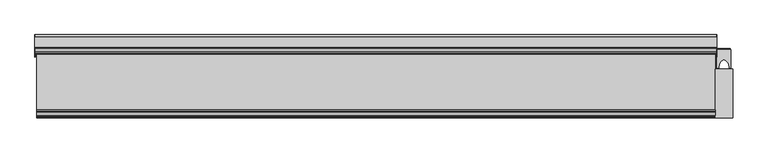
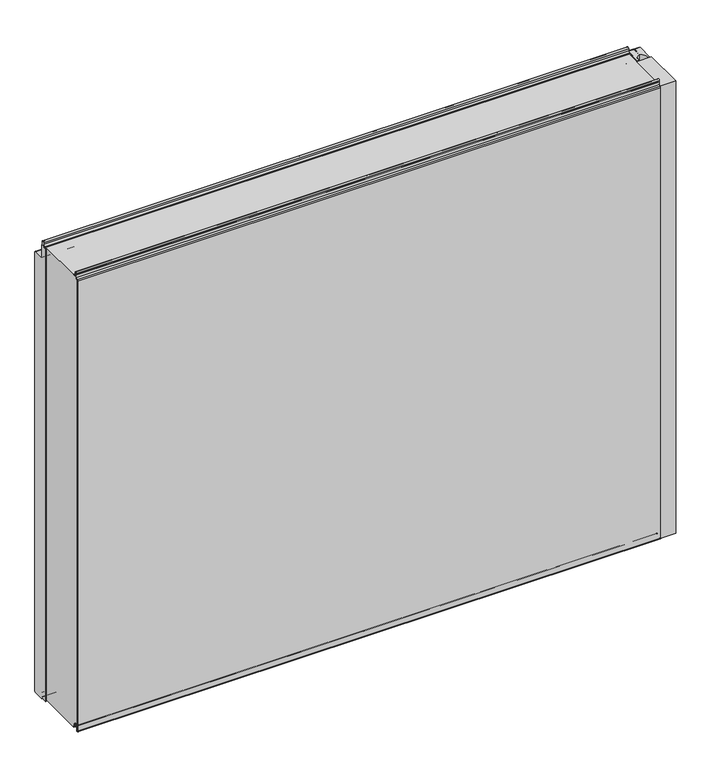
"""IFC4 building model written with IfcOpenShell, lengths in millimetres: plate geometry, Fronttop : Fronttop 150/1000."""

from ifc_helpers import new_model, si_unit, point, frame, frame_2d, origin, origin_with_axes, place, context, project, spatial, polyline, circle_curve, trimmed, segment, composite_curve, outline, extrude, source, transform, mapped, element, save
from ifc_brep_helpers import plane_surface, cylinder_surface, revolved_surface, advanced_brep


def plate_7855ccda(model_context):
    return source(origin(), model_context, "Body", "SolidModel", [
        advanced_brep(
        [(-611.5, 124.0, 1008.0), (-611.5, 121.0, 1008.0), (-611.5, 121.0, 1004.0), (-611.5, 117.0, 1000.0), (-611.5, 115.0, 1000.0), (-611.5, 115.0, 1001.0), (-611.5, 117.0, 1001.0), (-611.5, 120.0, 1004.0), (-611.5, 120.0, 1008.0), (-611.5, 125.0, 1008.0), (-611.5, 125.0, 1000.0), (-611.5, 124.0, 1000.0), (611.5, 125.0, 1008.0), (611.5, 120.0, 1008.0), (611.5, 120.0, 1004.0), (611.5, 117.0, 1001.0), (611.5, 115.0, 1001.0), (611.5, 115.0, 1000.0), (611.5, 117.0, 1000.0), (611.5, 121.0, 1004.0), (611.5, 121.0, 1008.0), (611.5, 124.0, 1008.0), (611.5, 124.0, 1000.0), (611.5, 125.0, 1000.0), (-611.5, 117.0, 2.0), (611.5, 117.0, 2.0), (611.5, 115.0, 2.0), (-611.5, 115.0, 2.0), (-611.5, 119.0, 4.0), (611.5, 119.0, 4.0), (-611.5, 119.0, 8.0), (611.5, 119.0, 8.0), (-611.5, 126.0, 8.0), (611.5, 126.0, 8.0), (-611.5, 126.0, 0.0), (611.5, 126.0, 0.0), (-611.5, 129.0, -3.0), (611.5, 129.0, -3.0), (-611.5, 125.0, -3.0), (-612.5, 125.0, -3.0), (-612.5, 147.0, -3.0), (-611.5, 147.0, -3.0), (611.5, 147.0, -3.0), (612.5, 147.0, -3.0), (612.5, 125.0, -3.0), (611.5, 125.0, -3.0), (-611.5, 150.0, 0.0), (611.5, 150.0, 0.0), (-612.5, 150.0, 0.0), (-612.5, 150.0, 969.0), (-611.5, 150.0, 969.0), (611.5, 150.0, 969.0), (612.5, 150.0, 969.0), (612.5, 150.0, 0.0), (-611.5, 147.0, 972.0), (611.5, 147.0, 972.0), (-612.5, 147.0, 972.0), (-612.5, 128.0, 972.0), (-611.5, 128.0, 972.0), (611.5, 128.0, 972.0), (612.5, 128.0, 972.0), (612.5, 147.0, 972.0), (-611.5, 125.0, 975.0), (611.5, 125.0, 975.0), (-612.5, 125.0, 975.0), (-612.5, 125.0, 1000.0), (612.5, 125.0, 1000.0), (612.5, 125.0, 975.0), (-611.5, 124.0, 975.0), (611.5, 124.0, 975.0), (-611.5, 128.0, 971.0), (611.5, 128.0, 971.0), (-611.5, 147.0, 971.0), (611.5, 147.0, 971.0), (-611.5, 149.0, 969.0), (611.5, 149.0, 969.0), (-611.5, 149.0, 0.0), (611.5, 149.0, 0.0), (-611.5, 147.0, -2.0), (611.5, 147.0, -2.0), (-611.5, 129.0, -2.0), (611.5, 129.0, -2.0), (-611.5, 127.0, 0.0), (611.5, 127.0, 0.0), (-611.5, 127.0, 8.0), (611.5, 127.0, 8.0), (-611.5, 118.0, 8.0), (611.5, 118.0, 8.0), (-611.5, 118.0, 4.0), (611.5, 118.0, 4.0), (-611.5, 117.0, 3.0), (611.5, 117.0, 3.0), (-611.5, 115.0, 3.0), (611.5, 115.0, 3.0), (612.5, 110.0, 1000.0), (612.5, 110.0, 0.0), (612.5, 125.0, 0.0), (611.5, 125.0, 0.0), (611.5, 110.0, 0.0), (611.5, 110.0, 1000.0), (-612.5, 125.0, 0.0), (-612.5, 110.0, 0.0), (-612.5, 110.0, 1000.0), (-611.5, 110.0, 1000.0), (-611.5, 110.0, 0.0), (-611.5, 125.0, 0.0)],
        [
            (0, 1, circle_curve(frame((-611.5, 122.5, 1008.0), z_axis=(1.0, 0.0, 0.0), x_axis=(0.0, -1.0, 0.0)), 1.5)),
            (1, 2),
            (2, 3, circle_curve(frame((-611.5, 117.0, 1004.0), z_axis=(-1.0, 0.0, 0.0), x_axis=(0.0, -1.0, 0.0)), 4.0)),
            (3, 4),
            (4, 5),
            (5, 6),
            (6, 7, circle_curve(frame((-611.5, 117.0, 1004.0), z_axis=(1.0, 0.0, 0.0), x_axis=(0.0, -1.0, 0.0)), 3.0)),
            (7, 8),
            (8, 9, circle_curve(frame((-611.5, 122.5, 1008.0), z_axis=(-1.0, 0.0, 0.0), x_axis=(0.0, -1.0, 0.0)), 2.5)),
            (9, 10),
            (10, 11),
            (11, 0),
            (12, 13, circle_curve(frame((611.5, 122.5, 1008.0), z_axis=(1.0, 0.0, 0.0), x_axis=(0.0, -1.0, 0.0)), 2.5)),
            (13, 14),
            (14, 15, circle_curve(frame((611.5, 117.0, 1004.0), z_axis=(-1.0, 0.0, 0.0), x_axis=(0.0, -1.0, 0.0)), 3.0)),
            (15, 16),
            (16, 17),
            (17, 18),
            (18, 19, circle_curve(frame((611.5, 117.0, 1004.0), z_axis=(1.0, 0.0, 0.0), x_axis=(0.0, -1.0, 0.0)), 4.0)),
            (19, 20),
            (20, 21, circle_curve(frame((611.5, 122.5, 1008.0), z_axis=(-1.0, 0.0, 0.0), x_axis=(0.0, -1.0, 0.0)), 1.5)),
            (21, 22),
            (22, 23),
            (23, 12),
            (24, 25),
            (25, 26),
            (26, 27),
            (27, 24),
            (24, 28, circle_curve(frame((-611.5, 117.0, 4.0), z_axis=(1.0, 0.0, 0.0), x_axis=(0.0, -1.0, 0.0)), 2.0)),
            (28, 29),
            (29, 25, circle_curve(frame((611.5, 117.0, 4.0), z_axis=(-1.0, 0.0, 0.0), x_axis=(0.0, -1.0, 0.0)), 2.0)),
            (28, 30),
            (30, 31),
            (31, 29),
            (30, 32, circle_curve(frame((-611.5, 122.5, 8.0), z_axis=(-1.0, 0.0, 0.0), x_axis=(0.0, -1.0, 0.0)), 3.5)),
            (32, 33),
            (33, 31, circle_curve(frame((611.5, 122.5, 8.0), z_axis=(1.0, 0.0, 0.0), x_axis=(0.0, -1.0, 0.0)), 3.5)),
            (32, 34),
            (34, 35),
            (35, 33),
            (34, 36, circle_curve(frame((-611.5, 129.0, 0.0), z_axis=(1.0, 0.0, 0.0), x_axis=(0.0, -1.0, 0.0)), 3.0)),
            (36, 37),
            (37, 35, circle_curve(frame((611.5, 129.0, 0.0), z_axis=(-1.0, 0.0, 0.0), x_axis=(0.0, -1.0, 0.0)), 3.0)),
            (36, 38),
            (38, 39),
            (39, 40),
            (40, 41),
            (41, 42),
            (42, 43),
            (43, 44),
            (44, 45),
            (45, 37),
            (41, 46, circle_curve(frame((-611.5, 147.0, 0.0), z_axis=(1.0, 0.0, 0.0), x_axis=(0.0, -1.0, 0.0)), 3.0)),
            (46, 47),
            (47, 42, circle_curve(frame((611.5, 147.0, 0.0), z_axis=(-1.0, 0.0, 0.0), x_axis=(0.0, -1.0, 0.0)), 3.0)),
            (46, 48),
            (48, 49),
            (49, 50),
            (50, 51),
            (51, 52),
            (52, 53),
            (53, 47),
            (50, 54, circle_curve(frame((-611.5, 147.0, 969.0), z_axis=(1.0, 0.0, 0.0), x_axis=(0.0, -1.0, 0.0)), 3.0)),
            (54, 55),
            (55, 51, circle_curve(frame((611.5, 147.0, 969.0), z_axis=(-1.0, 0.0, 0.0), x_axis=(0.0, -1.0, 0.0)), 3.0)),
            (54, 56),
            (56, 57),
            (57, 58),
            (58, 59),
            (59, 60),
            (60, 61),
            (61, 55),
            (58, 62, circle_curve(frame((-611.5, 128.0, 975.0), z_axis=(-1.0, 0.0, 0.0), x_axis=(0.0, -1.0, 0.0)), 3.0)),
            (62, 63),
            (63, 59, circle_curve(frame((611.5, 128.0, 975.0), z_axis=(1.0, 0.0, 0.0), x_axis=(0.0, -1.0, 0.0)), 3.0)),
            (62, 64),
            (64, 65),
            (65, 10),
            (9, 12),
            (23, 66),
            (66, 67),
            (67, 63),
            (8, 13),
            (7, 14),
            (6, 15),
            (5, 16),
            (4, 17),
            (4, 3),
            (3, 18),
            (18, 17),
            (2, 19),
            (1, 20),
            (0, 21),
            (11, 68),
            (68, 69),
            (69, 22),
            (68, 70, circle_curve(frame((-611.5, 128.0, 975.0), z_axis=(1.0, 0.0, 0.0), x_axis=(0.0, -1.0, 0.0)), 4.0)),
            (70, 71),
            (71, 69, circle_curve(frame((611.5, 128.0, 975.0), z_axis=(-1.0, 0.0, 0.0), x_axis=(0.0, -1.0, 0.0)), 4.0)),
            (70, 72),
            (72, 73),
            (73, 71),
            (72, 74, circle_curve(frame((-611.5, 147.0, 969.0), z_axis=(-1.0, 0.0, 0.0), x_axis=(0.0, -1.0, 0.0)), 2.0)),
            (74, 75),
            (75, 73, circle_curve(frame((611.5, 147.0, 969.0), z_axis=(1.0, 0.0, 0.0), x_axis=(0.0, -1.0, 0.0)), 2.0)),
            (74, 76),
            (76, 77),
            (77, 75),
            (76, 78, circle_curve(frame((-611.5, 147.0, 0.0), z_axis=(-1.0, 0.0, 0.0), x_axis=(0.0, -1.0, 0.0)), 2.0)),
            (78, 79),
            (79, 77, circle_curve(frame((611.5, 147.0, 0.0), z_axis=(1.0, 0.0, 0.0), x_axis=(0.0, -1.0, 0.0)), 2.0)),
            (78, 80),
            (80, 81),
            (81, 79),
            (80, 82, circle_curve(frame((-611.5, 129.0, 0.0), z_axis=(-1.0, 0.0, 0.0), x_axis=(0.0, -1.0, 0.0)), 2.0)),
            (82, 83),
            (83, 81, circle_curve(frame((611.5, 129.0, 0.0), z_axis=(1.0, 0.0, 0.0), x_axis=(0.0, -1.0, 0.0)), 2.0)),
            (82, 84),
            (84, 85),
            (85, 83),
            (84, 86, circle_curve(frame((-611.5, 122.5, 8.0), z_axis=(1.0, 0.0, 0.0), x_axis=(0.0, -1.0, 0.0)), 4.5)),
            (86, 87),
            (87, 85, circle_curve(frame((611.5, 122.5, 8.0), z_axis=(-1.0, 0.0, 0.0), x_axis=(0.0, -1.0, 0.0)), 4.5)),
            (86, 88),
            (88, 89),
            (89, 87),
            (88, 90, circle_curve(frame((-611.5, 117.0, 4.0), z_axis=(-1.0, 0.0, 0.0), x_axis=(0.0, -1.0, 0.0)), 1.0)),
            (90, 91),
            (91, 89, circle_curve(frame((611.5, 117.0, 4.0), z_axis=(1.0, 0.0, 0.0), x_axis=(0.0, -1.0, 0.0)), 1.0)),
            (90, 92),
            (92, 93),
            (93, 91),
            (26, 93),
            (92, 27),
            (66, 94),
            (94, 95),
            (95, 96),
            (96, 44),
            (43, 53, circle_curve(frame((612.5, 147.0, 0.0), z_axis=(1.0, 0.0, 0.0), x_axis=(0.0, 1.0, 0.0)), 3.0)),
            (52, 61, circle_curve(frame((612.5, 147.0, 969.0), z_axis=(1.0, 0.0, 0.0), x_axis=(0.0, 1.0, 0.0)), 3.0)),
            (60, 67, circle_curve(frame((612.5, 128.0, 975.0), z_axis=(-1.0, 0.0, 0.0), x_axis=(0.0, 1.0, 0.0)), 3.0)),
            (45, 97),
            (97, 98),
            (98, 99),
            (99, 17),
            (18, 22),
            (99, 94),
            (98, 95),
            (97, 96),
            (64, 57, circle_curve(frame((-612.5, 128.0, 975.0), z_axis=(1.0, 0.0, 0.0), x_axis=(0.0, 1.0, 0.0)), 3.0)),
            (56, 49, circle_curve(frame((-612.5, 147.0, 969.0), z_axis=(-1.0, 0.0, 0.0), x_axis=(0.0, 1.0, 0.0)), 3.0)),
            (48, 40, circle_curve(frame((-612.5, 147.0, 0.0), z_axis=(-1.0, 0.0, 0.0), x_axis=(0.0, 1.0, 0.0)), 3.0)),
            (39, 100),
            (100, 101),
            (101, 102),
            (102, 65),
            (103, 104),
            (104, 105),
            (105, 38),
            (11, 3),
            (4, 103),
            (102, 103),
            (101, 104),
            (100, 105),
        ],
        [
            plane_surface(frame((-611.5, 0.0, 0.0), z_axis=(-1.0, 0.0, 0.0), x_axis=(0.0, 0.0, 1.0))),
            plane_surface(frame((611.5, 0.0, 0.0), z_axis=(1.0, 0.0, 0.0), x_axis=(0.0, 0.0, 1.0))),
            plane_surface(frame((-611.5, 117.0, 2.0), z_axis=(0.0, 0.0, -1.0), x_axis=(1.0, 0.0, 0.0))),
            cylinder_surface(frame((-611.5, 117.0, 4.0), z_axis=(-1.0, 0.0, 0.0), x_axis=(0.0, -1.0, 0.0)), 2.0),
            plane_surface(frame((-611.5, 119.0, 8.0), z_axis=(0.0, 1.0, 0.0), x_axis=(1.0, 0.0, 0.0))),
            revolved_surface(polyline([(611.5, 119.0, 8.0), (-611.5, 119.0, 8.0)]), (-611.5, 122.5, 8.0), (1.0, 0.0, 0.0)),
            plane_surface(frame((-611.5, 126.0, 0.0), z_axis=(0.0, -1.0, 0.0), x_axis=(1.0, 0.0, 0.0))),
            cylinder_surface(frame((-611.5, 129.0, 0.0), z_axis=(-1.0, 0.0, 0.0), x_axis=(0.0, -1.0, 0.0)), 3.0),
            plane_surface(frame((-611.5, 147.0, -3.0), z_axis=(0.0, 0.0, -1.0), x_axis=(1.0, 0.0, 0.0))),
            cylinder_surface(frame((-611.5, 147.0, 0.0), z_axis=(-1.0, 0.0, 0.0), x_axis=(0.0, -1.0, 0.0)), 3.0),
            plane_surface(frame((-611.5, 150.0, 969.0), z_axis=(0.0, 1.0, 0.0), x_axis=(1.0, 0.0, 0.0))),
            cylinder_surface(frame((-611.5, 147.0, 969.0), z_axis=(-1.0, 0.0, 0.0), x_axis=(0.0, -1.0, 0.0)), 3.0),
            plane_surface(frame((-611.5, 128.0, 972.0), z_axis=(0.0, 0.0, 1.0), x_axis=(1.0, 0.0, 0.0))),
            revolved_surface(polyline([(611.5, 125.0, 975.0), (-611.5, 125.0, 975.0)]), (-611.5, 128.0, 975.0), (1.0, 0.0, 0.0)),
            plane_surface(frame((-611.5, 125.0, 1008.0), z_axis=(0.0, 1.0, 0.0), x_axis=(1.0, 0.0, 0.0))),
            cylinder_surface(frame((-611.5, 122.5, 1008.0), z_axis=(-1.0, 0.0, 0.0), x_axis=(0.0, -1.0, 0.0)), 2.5),
            plane_surface(frame((-611.5, 120.0, 1004.0), z_axis=(0.0, -1.0, 0.0), x_axis=(1.0, 0.0, 0.0))),
            revolved_surface(polyline([(611.5, 114.0, 1004.0), (-611.5, 114.0, 1004.0)]), (-611.5, 117.0, 1004.0), (1.0, 0.0, 0.0)),
            plane_surface(frame((-611.5, 115.0, 1001.0), z_axis=(0.0, 0.0, 1.0), x_axis=(1.0, 0.0, 0.0))),
            plane_surface(frame((-611.5, 115.0, 1000.0), z_axis=(0.0, -1.0, 0.0), x_axis=(1.0, 0.0, 0.0))),
            plane_surface(frame((-611.5, 117.0, 1000.0), z_axis=(0.0, 0.0, -1.0), x_axis=(1.0, 0.0, 0.0))),
            cylinder_surface(frame((-611.5, 117.0, 1004.0), z_axis=(-1.0, 0.0, 0.0), x_axis=(0.0, -1.0, 0.0)), 4.0),
            plane_surface(frame((-611.5, 121.0, 1008.0), z_axis=(0.0, 1.0, 0.0), x_axis=(1.0, 0.0, 0.0))),
            revolved_surface(polyline([(611.5, 121.0, 1008.0), (-611.5, 121.0, 1008.0)]), (-611.5, 122.5, 1008.0), (1.0, 0.0, 0.0)),
            plane_surface(frame((-611.5, 124.0, 975.0), z_axis=(0.0, -1.0, 0.0), x_axis=(1.0, 0.0, 0.0))),
            cylinder_surface(frame((-611.5, 128.0, 975.0), z_axis=(-1.0, 0.0, 0.0), x_axis=(0.0, -1.0, 0.0)), 4.0),
            plane_surface(frame((-611.5, 147.0, 971.0), z_axis=(0.0, 0.0, -1.0), x_axis=(1.0, 0.0, 0.0))),
            revolved_surface(polyline([(611.5, 145.0, 969.0), (-611.5, 145.0, 969.0)]), (-611.5, 147.0, 969.0), (1.0, 0.0, 0.0)),
            plane_surface(frame((-611.5, 149.0, 0.0), z_axis=(0.0, -1.0, 0.0), x_axis=(1.0, 0.0, 0.0))),
            revolved_surface(polyline([(611.5, 145.0, 0.0), (-611.5, 145.0, 0.0)]), (-611.5, 147.0, 0.0), (1.0, 0.0, 0.0)),
            plane_surface(frame((-611.5, 129.0, -2.0), z_axis=(0.0, 0.0, 1.0), x_axis=(1.0, 0.0, 0.0))),
            revolved_surface(polyline([(611.5, 127.0, 0.0), (-611.5, 127.0, 0.0)]), (-611.5, 129.0, 0.0), (1.0, 0.0, 0.0)),
            plane_surface(frame((-611.5, 127.0, 8.0), z_axis=(0.0, 1.0, 0.0), x_axis=(1.0, 0.0, 0.0))),
            cylinder_surface(frame((-611.5, 122.5, 8.0), z_axis=(-1.0, 0.0, 0.0), x_axis=(0.0, -1.0, 0.0)), 4.5),
            plane_surface(frame((-611.5, 118.0, 4.0), z_axis=(0.0, -1.0, 0.0), x_axis=(1.0, 0.0, 0.0))),
            revolved_surface(polyline([(611.5, 116.0, 4.0), (-611.5, 116.0, 4.0)]), (-611.5, 117.0, 4.0), (1.0, 0.0, 0.0)),
            plane_surface(frame((-611.5, 115.0, 3.0), z_axis=(0.0, 0.0, 1.0), x_axis=(1.0, 0.0, 0.0))),
            plane_surface(frame((-611.5, 115.0, 2.0), z_axis=(0.0, -1.0, 0.0), x_axis=(1.0, 0.0, 0.0))),
            plane_surface(frame((612.5, 125.0, 1000.0), z_axis=(1.0, 0.0, 0.0), x_axis=(0.0, -1.0, 0.0))),
            plane_surface(frame((611.5, 125.0, 1000.0), z_axis=(-1.0, 0.0, 0.0), x_axis=(0.0, 1.0, 0.0))),
            plane_surface(frame((612.5, 125.0, 1000.0), z_axis=(0.0, 0.0, 1.0), x_axis=(-1.0, 0.0, 0.0))),
            plane_surface(frame((612.5, 110.0, 1000.0), z_axis=(0.0, -1.0, 0.0), x_axis=(-1.0, 0.0, 0.0))),
            plane_surface(frame((612.5, 110.0, 0.0), z_axis=(0.0, 0.0, -1.0), x_axis=(-1.0, 0.0, 0.0))),
            cylinder_surface(frame((611.5, 147.0, 0.0), z_axis=(1.0, 0.0, 0.0), x_axis=(0.0, 1.0, 0.0)), 3.0),
            cylinder_surface(frame((611.5, 147.0, 969.0), z_axis=(1.0, 0.0, 0.0), x_axis=(0.0, 1.0, 0.0)), 3.0),
            revolved_surface(polyline([(611.5, 131.0, 975.0), (612.5, 131.0, 975.0)]), (611.5, 128.0, 975.0), (-1.0, 0.0, 0.0)),
            plane_surface(frame((-612.5, 125.0, 1000.0), z_axis=(-1.0, 0.0, 0.0), x_axis=(0.0, 1.0, 0.0))),
            plane_surface(frame((-611.5, 125.0, 1000.0), z_axis=(1.0, 0.0, 0.0), x_axis=(0.0, -1.0, 0.0))),
            plane_surface(frame((-611.5, 125.0, 1000.0), z_axis=(0.0, 0.0, 1.0), x_axis=(-1.0, 0.0, 0.0))),
            plane_surface(frame((-611.5, 110.0, 1000.0), z_axis=(0.0, -1.0, 0.0), x_axis=(-1.0, 0.0, 0.0))),
            plane_surface(frame((-611.5, 110.0, 0.0), z_axis=(0.0, 0.0, -1.0), x_axis=(-1.0, 0.0, 0.0))),
            cylinder_surface(frame((-612.5, 147.0, 0.0), z_axis=(1.0, 0.0, 0.0), x_axis=(0.0, 1.0, 0.0)), 3.0),
            cylinder_surface(frame((-612.5, 147.0, 969.0), z_axis=(1.0, 0.0, 0.0), x_axis=(0.0, 1.0, 0.0)), 3.0),
            revolved_surface(polyline([(-612.5, 131.0, 975.0), (-611.5, 131.0, 975.0)]), (-612.5, 128.0, 975.0), (-1.0, 0.0, 0.0)),
            plane_surface(frame((612.5, 125.0, 0.0), z_axis=(0.0, -1.0, 0.0), x_axis=(-1.0, 0.0, 0.0))),
            plane_surface(frame((-611.5, 125.0, 0.0), z_axis=(0.0, -1.0, 0.0), x_axis=(-1.0, 0.0, 0.0))),
        ],
        [
            (0, [[1, 2, 3, 4, 5, 6, 7, 8, 9, 10, 11, 12]]),
            (1, [[13, 14, 15, 16, 17, 18, 19, 20, 21, 22, 23, 24]]),
            (2, [[25, 26, 27, 28]]),
            (3, [[-25, 29, 30, 31]]),
            (4, [[-30, 32, 33, 34]]),
            (5, [[-33, 35, 36, 37]]),
            (6, [[-36, 38, 39, 40]]),
            (7, [[-39, 41, 42, 43]]),
            (8, [[-42, 44, 45, 46, 47, 48, 49, 50, 51, 52]]),
            (9, [[-48, 53, 54, 55]]),
            (10, [[-54, 56, 57, 58, 59, 60, 61, 62]]),
            (11, [[-59, 63, 64, 65]]),
            (12, [[-64, 66, 67, 68, 69, 70, 71, 72]]),
            (13, [[-69, 73, 74, 75]]),
            (14, [[-74, 76, 77, 78, -10, 79, -24, 80, 81, 82]]),
            (15, [[-9, 83, -13, -79]]),
            (16, [[-8, 84, -14, -83]]),
            (17, [[-7, 85, -15, -84]]),
            (18, [[-6, 86, -16, -85]]),
            (19, [[-5, 87, -17, -86]]),
            (20, [[-87, 88, 89, 90]]),
            (21, [[-3, 91, -19, -89]]),
            (22, [[-2, 92, -20, -91]]),
            (23, [[-1, 93, -21, -92]]),
            (24, [[-93, -12, 94, 95, 96, -22]]),
            (25, [[-95, 97, 98, 99]]),
            (26, [[-98, 100, 101, 102]]),
            (27, [[-101, 103, 104, 105]]),
            (28, [[-104, 106, 107, 108]]),
            (29, [[-107, 109, 110, 111]]),
            (30, [[-110, 112, 113, 114]]),
            (31, [[-113, 115, 116, 117]]),
            (32, [[-116, 118, 119, 120]]),
            (33, [[-119, 121, 122, 123]]),
            (34, [[-122, 124, 125, 126]]),
            (35, [[-125, 127, 128, 129]]),
            (36, [[-128, 130, 131, 132]]),
            (37, [[-27, 133, -131, 134]]),
            (38, [[135, 136, 137, 138, -50, 139, -61, 140, -71, 141, -81]]),
            (39, [[142, 143, 144, 145, -90, 146, -96, -99, -102, -105, -108, -111, -114, -117, -120, -123, -126, -129, -132, -133, -26, -31, -34, -37, -40, -43, -52]]),
            (40, [[-135, -80, -23, -146, -18, -145, 147]]),
            (41, [[-136, -147, -144, 148]]),
            (42, [[-137, -148, -143, 149]]),
            (43, [[-139, -49, -55, -62]]),
            (44, [[-140, -60, -65, -72]]),
            (45, [[-141, -70, -75, -82]]),
            (46, [[-77, 150, -67, 151, -57, 152, -46, 153, 154, 155, 156]]),
            (47, [[157, 158, 159, -44, -41, -38, -35, -32, -29, -28, -134, -130, -127, -124, -121, -118, -115, -112, -109, -106, -103, -100, -97, -94, 160, -88, 161]]),
            (48, [[-156, 162, -161, -4, -160, -11, -78]]),
            (49, [[-155, 163, -157, -162]]),
            (50, [[-154, 164, -158, -163]]),
            (51, [[-152, -56, -53, -47]]),
            (52, [[-151, -66, -63, -58]]),
            (53, [[-150, -76, -73, -68]]),
            (54, [[-138, -149, -142, -51]]),
            (55, [[-153, -45, -159, -164]]),
        ],
    ),
        extrude(outline(composite_curve([segment(polyline([(612.4998455, 123.5), (624.25, 123.5), (624.25, 107.5), (625.75, 107.5), (625.75, 123.5), (637.5001545, 123.5), (637.5001545, 90.0), (634.75, 90.0), (634.75, 92.5)]), True, "CONTINUOUS"), segment(trimmed(circle_curve(frame_2d((616.9661979, 89.3183984)), 18.0661619), [point((634.75, 92.5))], [point((625.0, 105.5))], True, "CARTESIAN"), True, "CONTINUOUS"), segment(trimmed(circle_curve(frame_2d((633.0338021, 89.3183984)), 18.0661619), [point((625.0, 105.5))], [point((615.25, 92.5))], True, "CARTESIAN"), True, "CONTINUOUS"), segment(polyline([(615.25, 92.5), (615.25, 90.0), (612.4998455, 90.0), (612.4998455, 123.5)]), True, "CONTINUOUS")], self_intersect=False)), origin_with_axes(), (0.0, 0.0, 1.0), 1000.0),
        extrude(outline(polyline([(640.5, 0.0), (609.5, 0.0), (609.5, 88.0), (640.5, 88.0), (640.5, 0.0)])), origin_with_axes(), (0.0, 0.0, 1.0), 1000.0),
        extrude(outline(polyline([(613.4948846, 125.0), (636.5051154, 125.0), (636.5051154, 123.5), (625.6502496, 123.5), (625.6502496, 109.0759655), (624.35, 109.0759655), (624.35, 123.5), (613.4948846, 123.5), (613.4948846, 125.0)])), origin_with_axes(), (0.0, 0.0, 1.0), 1000.0),
        advanced_brep(
        [(-609.5, 13.0, 1001.0), (-609.5, 15.0, 1001.0), (-609.5, 15.0, 1000.0), (-609.5, 13.0, 1000.0), (-609.5, 9.0, 1004.0), (-609.5, 9.0, 1008.0), (-609.5, 6.0, 1008.0), (-609.5, 6.0, 999.5), (-609.5, 2.1134897, 996.0214069), (-609.5, 1.0, 995.0), (-609.5, 1.0, -0.5), (-609.5, 3.0, -0.5), (-609.5, 3.0, 8.0), (-609.5, 12.0, 8.0), (-609.5, 12.0, 4.0), (-609.5, 13.0, 3.0), (-609.5, 15.0, 3.0), (-609.5, 15.0, 2.0), (-609.5, 13.0, 2.0), (-609.5, 11.0, 4.0), (-609.5, 11.0, 8.0), (-609.5, 4.0, 8.0), (-609.5, 4.0, -0.5), (-609.5, 0.0, -0.5), (-609.5, 0.0, 995.0), (-609.5, 2.220863, 996.9877675), (-609.5, 5.0, 999.5), (-609.5, 5.0, 1008.0), (-609.5, 10.0, 1008.0), (-609.5, 10.0, 1004.0), (609.5, 13.0, 1001.0), (609.5, 10.0, 1004.0), (609.5, 10.0, 1008.0), (609.5, 5.0, 1008.0), (609.5, 5.0, 999.5), (609.5, 2.2239212, 997.0152907), (609.5, 0.0, 995.0), (609.5, 0.0, -0.5), (609.5, 4.0, -0.5), (609.5, 4.0, 8.0), (609.5, 11.0, 8.0), (609.5, 11.0, 4.0), (609.5, 13.0, 2.0), (609.5, 15.0, 2.0), (609.5, 15.0, 3.0), (609.5, 13.0, 3.0), (609.5, 12.0, 4.0), (609.5, 12.0, 8.0), (609.5, 3.0, 8.0), (609.5, 3.0, -0.5), (609.5, 1.0, -0.5), (609.5, 1.0, 995.0), (609.5, 2.1104315, 995.9938837), (609.5, 6.0, 999.5), (609.5, 6.0, 1008.0), (609.5, 9.0, 1008.0), (609.5, 9.0, 1004.0), (609.5, 13.0, 1000.0), (609.5, 15.0, 1000.0), (609.5, 15.0, 1001.0)],
        [
            (0, 1),
            (1, 2),
            (2, 3),
            (3, 4, circle_curve(frame((-609.5, 13.0, 1004.0), z_axis=(-1.0, 0.0, 0.0), x_axis=(0.0, -1.0, 0.0)), 4.0)),
            (4, 5),
            (5, 6, circle_curve(frame((-609.5, 7.5, 1008.0), z_axis=(1.0, 0.0, 0.0), x_axis=(0.0, -1.0, 0.0)), 1.5)),
            (6, 7),
            (7, 8, circle_curve(frame((-609.5, 2.5, 999.5), z_axis=(-1.0, 0.0, 0.0), x_axis=(0.0, -1.0, 0.0)), 3.5)),
            (8, 9, circle_curve(frame((-609.5, 2.0, 995.0), z_axis=(1.0, 0.0, 0.0), x_axis=(0.0, -1.0, 0.0)), 1.0)),
            (9, 10),
            (10, 11, circle_curve(frame((-609.5, 2.0, -0.5), z_axis=(1.0, 0.0, 0.0), x_axis=(0.0, -1.0, 0.0)), 1.0)),
            (11, 12),
            (12, 13, circle_curve(frame((-609.5, 7.5, 8.0), z_axis=(-1.0, 0.0, 0.0), x_axis=(0.0, -1.0, 0.0)), 4.5)),
            (13, 14),
            (14, 15, circle_curve(frame((-609.5, 13.0, 4.0), z_axis=(1.0, 0.0, 0.0), x_axis=(0.0, -1.0, 0.0)), 1.0)),
            (15, 16),
            (16, 17),
            (17, 18),
            (18, 19, circle_curve(frame((-609.5, 13.0, 4.0), z_axis=(-1.0, 0.0, 0.0), x_axis=(0.0, -1.0, 0.0)), 2.0)),
            (19, 20),
            (20, 21, circle_curve(frame((-609.5, 7.5, 8.0), z_axis=(1.0, 0.0, 0.0), x_axis=(0.0, -1.0, 0.0)), 3.5)),
            (21, 22),
            (22, 23, circle_curve(frame((-609.5, 2.0, -0.5), z_axis=(-1.0, 0.0, 0.0), x_axis=(0.0, -1.0, 0.0)), 2.0)),
            (23, 24),
            (24, 25, circle_curve(frame((-609.5, 2.0, 995.0), z_axis=(-1.0, 0.0, 0.0), x_axis=(0.0, -1.0, 0.0)), 2.0)),
            (25, 26, circle_curve(frame((-609.5, 2.5, 999.5), z_axis=(1.0, 0.0, 0.0), x_axis=(0.0, -1.0, 0.0)), 2.5)),
            (26, 27),
            (27, 28, circle_curve(frame((-609.5, 7.5, 1008.0), z_axis=(-1.0, 0.0, 0.0), x_axis=(0.0, -1.0, 0.0)), 2.5)),
            (28, 29),
            (29, 0, circle_curve(frame((-609.5, 13.0, 1004.0), z_axis=(1.0, 0.0, 0.0), x_axis=(0.0, -1.0, 0.0)), 3.0)),
            (30, 31, circle_curve(frame((609.5, 13.0, 1004.0), z_axis=(-1.0, 0.0, 0.0), x_axis=(0.0, -1.0, 0.0)), 3.0)),
            (31, 32),
            (32, 33, circle_curve(frame((609.5, 7.5, 1008.0), z_axis=(1.0, 0.0, 0.0), x_axis=(0.0, -1.0, 0.0)), 2.5)),
            (33, 34),
            (34, 35, circle_curve(frame((609.5, 2.5, 999.5), z_axis=(-1.0, 0.0, 0.0), x_axis=(0.0, -1.0, 0.0)), 2.5)),
            (35, 36, circle_curve(frame((609.5, 2.0, 995.0), z_axis=(1.0, 0.0, 0.0), x_axis=(0.0, -1.0, 0.0)), 2.0)),
            (36, 37),
            (37, 38, circle_curve(frame((609.5, 2.0, -0.5), z_axis=(1.0, 0.0, 0.0), x_axis=(0.0, -1.0, 0.0)), 2.0)),
            (38, 39),
            (39, 40, circle_curve(frame((609.5, 7.5, 8.0), z_axis=(-1.0, 0.0, 0.0), x_axis=(0.0, -1.0, 0.0)), 3.5)),
            (40, 41),
            (41, 42, circle_curve(frame((609.5, 13.0, 4.0), z_axis=(1.0, 0.0, 0.0), x_axis=(0.0, -1.0, 0.0)), 2.0)),
            (42, 43),
            (43, 44),
            (44, 45),
            (45, 46, circle_curve(frame((609.5, 13.0, 4.0), z_axis=(-1.0, 0.0, 0.0), x_axis=(0.0, -1.0, 0.0)), 1.0)),
            (46, 47),
            (47, 48, circle_curve(frame((609.5, 7.5, 8.0), z_axis=(1.0, 0.0, 0.0), x_axis=(0.0, -1.0, 0.0)), 4.5)),
            (48, 49),
            (49, 50, circle_curve(frame((609.5, 2.0, -0.5), z_axis=(-1.0, 0.0, 0.0), x_axis=(0.0, -1.0, 0.0)), 1.0)),
            (50, 51),
            (51, 52, circle_curve(frame((609.5, 2.0, 995.0), z_axis=(-1.0, 0.0, 0.0), x_axis=(0.0, -1.0, 0.0)), 1.0)),
            (52, 53, circle_curve(frame((609.5, 2.5, 999.5), z_axis=(1.0, 0.0, 0.0), x_axis=(0.0, -1.0, 0.0)), 3.5)),
            (53, 54),
            (54, 55, circle_curve(frame((609.5, 7.5, 1008.0), z_axis=(-1.0, 0.0, 0.0), x_axis=(0.0, -1.0, 0.0)), 1.5)),
            (55, 56),
            (56, 57, circle_curve(frame((609.5, 13.0, 1004.0), z_axis=(1.0, 0.0, 0.0), x_axis=(0.0, -1.0, 0.0)), 4.0)),
            (57, 58),
            (58, 59),
            (59, 30),
            (0, 30),
            (59, 1),
            (58, 2),
            (57, 3),
            (56, 4),
            (55, 5),
            (54, 6),
            (53, 7),
            (52, 8),
            (51, 9),
            (50, 10),
            (49, 11),
            (48, 12),
            (47, 13),
            (46, 14),
            (45, 15),
            (44, 16),
            (43, 17),
            (42, 18),
            (41, 19),
            (40, 20),
            (39, 21),
            (38, 22),
            (37, 23),
            (36, 24),
            (35, 25),
            (34, 26),
            (33, 27),
            (32, 28),
            (31, 29),
        ],
        [
            plane_surface(frame((-609.5, 0.0, 0.0), z_axis=(-1.0, 0.0, 0.0), x_axis=(0.0, 0.0, 1.0))),
            plane_surface(frame((609.5, 0.0, 0.0), z_axis=(1.0, 0.0, 0.0), x_axis=(0.0, 0.0, 1.0))),
            plane_surface(frame((-609.5, 13.0, 1001.0), z_axis=(0.0, 0.0, 1.0), x_axis=(1.0, 0.0, 0.0))),
            plane_surface(frame((-609.5, 15.0, 1001.0), z_axis=(0.0, 1.0, 0.0), x_axis=(1.0, 0.0, 0.0))),
            plane_surface(frame((-609.5, 15.0, 1000.0), z_axis=(0.0, 0.0, -1.0), x_axis=(1.0, 0.0, 0.0))),
            cylinder_surface(frame((-609.5, 13.0, 1004.0), z_axis=(-1.0, 0.0, 0.0), x_axis=(0.0, -1.0, 0.0)), 4.0),
            plane_surface(frame((-609.5, 9.0, 1004.0), z_axis=(0.0, -1.0, 0.0), x_axis=(1.0, 0.0, 0.0))),
            revolved_surface(polyline([(609.5, 6.0, 1008.0), (-609.5, 6.0, 1008.0)]), (-609.5, 7.5, 1008.0), (1.0, 0.0, 0.0)),
            plane_surface(frame((-609.5, 6.0, 1008.0), z_axis=(0.0, 1.0, 0.0), x_axis=(1.0, 0.0, 0.0))),
            cylinder_surface(frame((-609.5, 2.5, 999.5), z_axis=(-1.0, 0.0, 0.0), x_axis=(0.0, -1.0, 0.0)), 3.5),
            revolved_surface(polyline([(609.5, 1.0, 995.0), (-609.5, 1.0, 995.0)]), (-609.5, 2.0, 995.0), (1.0, 0.0, 0.0)),
            plane_surface(frame((-609.5, 1.0, 995.0), z_axis=(0.0, 1.0, 0.0), x_axis=(1.0, 0.0, 0.0))),
            revolved_surface(polyline([(609.5, 1.0, -0.5), (-609.5, 1.0, -0.5)]), (-609.5, 2.0, -0.5), (1.0, 0.0, 0.0)),
            plane_surface(frame((-609.5, 3.0, -0.5), z_axis=(0.0, -1.0, 0.0), x_axis=(1.0, 0.0, 0.0))),
            cylinder_surface(frame((-609.5, 7.5, 8.0), z_axis=(-1.0, 0.0, 0.0), x_axis=(0.0, -1.0, 0.0)), 4.5),
            plane_surface(frame((-609.5, 12.0, 8.0), z_axis=(0.0, 1.0, 0.0), x_axis=(1.0, 0.0, 0.0))),
            revolved_surface(polyline([(609.5, 12.0, 4.0), (-609.5, 12.0, 4.0)]), (-609.5, 13.0, 4.0), (1.0, 0.0, 0.0)),
            plane_surface(frame((-609.5, 13.0, 3.0), z_axis=(0.0, 0.0, 1.0), x_axis=(1.0, 0.0, 0.0))),
            plane_surface(frame((-609.5, 15.0, 3.0), z_axis=(0.0, 1.0, 0.0), x_axis=(1.0, 0.0, 0.0))),
            plane_surface(frame((-609.5, 15.0, 2.0), z_axis=(0.0, 0.0, -1.0), x_axis=(1.0, 0.0, 0.0))),
            cylinder_surface(frame((-609.5, 13.0, 4.0), z_axis=(-1.0, 0.0, 0.0), x_axis=(0.0, -1.0, 0.0)), 2.0),
            plane_surface(frame((-609.5, 11.0, 4.0), z_axis=(0.0, -1.0, 0.0), x_axis=(1.0, 0.0, 0.0))),
            revolved_surface(polyline([(609.5, 4.0, 8.0), (-609.5, 4.0, 8.0)]), (-609.5, 7.5, 8.0), (1.0, 0.0, 0.0)),
            plane_surface(frame((-609.5, 4.0, 8.0), z_axis=(0.0, 1.0, 0.0), x_axis=(1.0, 0.0, 0.0))),
            cylinder_surface(frame((-609.5, 2.0, -0.5), z_axis=(-1.0, 0.0, 0.0), x_axis=(0.0, -1.0, 0.0)), 2.0),
            plane_surface(frame((-609.5, 0.0, -0.5), z_axis=(0.0, -1.0, 0.0), x_axis=(1.0, 0.0, 0.0))),
            cylinder_surface(frame((-609.5, 2.0, 995.0), z_axis=(-1.0, 0.0, 0.0), x_axis=(0.0, -1.0, 0.0)), 2.0),
            revolved_surface(polyline([(609.5, 0.0, 999.5), (-609.5, 0.0, 999.5)]), (-609.5, 2.5, 999.5), (1.0, 0.0, 0.0)),
            plane_surface(frame((-609.5, 5.0, 999.5), z_axis=(0.0, -1.0, 0.0), x_axis=(1.0, 0.0, 0.0))),
            cylinder_surface(frame((-609.5, 7.5, 1008.0), z_axis=(-1.0, 0.0, 0.0), x_axis=(0.0, -1.0, 0.0)), 2.5),
            plane_surface(frame((-609.5, 10.0, 1008.0), z_axis=(0.0, 1.0, 0.0), x_axis=(1.0, 0.0, 0.0))),
            revolved_surface(polyline([(609.5, 10.0, 1004.0), (-609.5, 10.0, 1004.0)]), (-609.5, 13.0, 1004.0), (1.0, 0.0, 0.0)),
        ],
        [
            (0, [[1, 2, 3, 4, 5, 6, 7, 8, 9, 10, 11, 12, 13, 14, 15, 16, 17, 18, 19, 20, 21, 22, 23, 24, 25, 26, 27, 28, 29, 30]]),
            (1, [[31, 32, 33, 34, 35, 36, 37, 38, 39, 40, 41, 42, 43, 44, 45, 46, 47, 48, 49, 50, 51, 52, 53, 54, 55, 56, 57, 58, 59, 60]]),
            (2, [[-1, 61, -60, 62]]),
            (3, [[-2, -62, -59, 63]]),
            (4, [[-3, -63, -58, 64]]),
            (5, [[-4, -64, -57, 65]]),
            (6, [[-5, -65, -56, 66]]),
            (7, [[-6, -66, -55, 67]]),
            (8, [[-7, -67, -54, 68]]),
            (9, [[-8, -68, -53, 69]]),
            (10, [[-9, -69, -52, 70]]),
            (11, [[-10, -70, -51, 71]]),
            (12, [[-11, -71, -50, 72]]),
            (13, [[-12, -72, -49, 73]]),
            (14, [[-13, -73, -48, 74]]),
            (15, [[-14, -74, -47, 75]]),
            (16, [[-15, -75, -46, 76]]),
            (17, [[-16, -76, -45, 77]]),
            (18, [[-17, -77, -44, 78]]),
            (19, [[-18, -78, -43, 79]]),
            (20, [[-19, -79, -42, 80]]),
            (21, [[-20, -80, -41, 81]]),
            (22, [[-21, -81, -40, 82]]),
            (23, [[-22, -82, -39, 83]]),
            (24, [[-23, -83, -38, 84]]),
            (25, [[-24, -84, -37, 85]]),
            (26, [[-25, -85, -36, 86]]),
            (27, [[-26, -86, -35, 87]]),
            (28, [[-27, -87, -34, 88]]),
            (29, [[-28, -88, -33, 89]]),
            (30, [[-29, -89, -32, 90]]),
            (31, [[-30, -90, -31, -61]]),
        ],
    ),
        extrude(outline(composite_curve([segment(polyline([(15.0, 3.0), (13.0, 3.0)]), True, "CONTINUOUS"), segment(trimmed(circle_curve(frame_2d((13.0, 4.0)), 1.0), [point((13.0, 3.0))], [point((12.0, 4.0))], False, "CARTESIAN"), True, "CONTINUOUS"), segment(polyline([(12.0, 4.0), (12.0, 8.0)]), True, "CONTINUOUS"), segment(trimmed(circle_curve(frame_2d((7.5, 8.0)), 4.5), [point((12.0, 8.0))], [point((3.0, 8.0))], True, "CARTESIAN"), True, "CONTINUOUS"), segment(polyline([(3.0, 8.0), (3.0, -0.5)]), True, "CONTINUOUS"), segment(trimmed(circle_curve(frame_2d((2.0, -0.5)), 1.0), [point((3.0, -0.5))], [point((1.0, -0.5))], False, "CARTESIAN"), True, "CONTINUOUS"), segment(polyline([(1.0, -0.5), (1.0, 995.0278643)]), True, "CONTINUOUS"), segment(trimmed(circle_curve(frame_2d((2.0, 995.0278643)), 1.0), [point((1.0, 995.0278643))], [point((2.1111111, 996.0216723))], False, "CARTESIAN"), True, "CONTINUOUS"), segment(trimmed(circle_curve(frame_2d((2.5, 999.5)), 3.5), [point((2.1111111, 996.0216723))], [point((6.0, 999.5))], True, "CARTESIAN"), True, "CONTINUOUS"), segment(polyline([(6.0, 999.5), (6.0, 1008.0)]), True, "CONTINUOUS"), segment(trimmed(circle_curve(frame_2d((7.5, 1008.0)), 1.5), [point((6.0, 1008.0))], [point((9.0, 1008.0))], False, "CARTESIAN"), True, "CONTINUOUS"), segment(polyline([(9.0, 1008.0), (9.0, 1004.0)]), True, "CONTINUOUS"), segment(trimmed(circle_curve(frame_2d((13.0, 1004.0)), 4.0), [point((9.0, 1004.0))], [point((13.0, 1000.0))], True, "CARTESIAN"), True, "CONTINUOUS"), segment(polyline([(13.0, 1000.0), (117.0, 1000.0)]), True, "CONTINUOUS"), segment(trimmed(circle_curve(frame_2d((117.0, 1004.0)), 4.0), [point((117.0, 1000.0))], [point((121.0, 1004.0))], True, "CARTESIAN"), True, "CONTINUOUS"), segment(polyline([(121.0, 1004.0), (121.0, 1008.0)]), True, "CONTINUOUS"), segment(trimmed(circle_curve(frame_2d((122.5, 1008.0)), 1.5), [point((121.0, 1008.0))], [point((124.0, 1008.0))], False, "CARTESIAN"), True, "CONTINUOUS"), segment(polyline([(124.0, 1008.0), (124.0, 975.0)]), True, "CONTINUOUS"), segment(trimmed(circle_curve(frame_2d((128.0, 975.0)), 4.0), [point((124.0, 975.0))], [point((128.0, 971.0))], True, "CARTESIAN"), True, "CONTINUOUS"), segment(polyline([(128.0, 971.0), (147.0, 971.0)]), True, "CONTINUOUS"), segment(trimmed(circle_curve(frame_2d((147.0, 969.0)), 2.0), [point((147.0, 971.0))], [point((149.0, 969.0))], False, "CARTESIAN"), True, "CONTINUOUS"), segment(polyline([(149.0, 969.0), (149.0, 0.0)]), True, "CONTINUOUS"), segment(trimmed(circle_curve(frame_2d((147.0, 0.0)), 2.0), [point((149.0, 0.0))], [point((147.0, -2.0))], False, "CARTESIAN"), True, "CONTINUOUS"), segment(polyline([(147.0, -2.0), (129.0, -2.0)]), True, "CONTINUOUS"), segment(trimmed(circle_curve(frame_2d((129.0, 0.0)), 2.0), [point((129.0, -2.0))], [point((127.0, 0.0))], False, "CARTESIAN"), True, "CONTINUOUS"), segment(polyline([(127.0, 0.0), (127.0, 8.0)]), True, "CONTINUOUS"), segment(trimmed(circle_curve(frame_2d((122.5, 8.0)), 4.5), [point((127.0, 8.0))], [point((118.0, 8.0))], True, "CARTESIAN"), True, "CONTINUOUS"), segment(polyline([(118.0, 8.0), (118.0, 4.0)]), True, "CONTINUOUS"), segment(trimmed(circle_curve(frame_2d((117.0, 4.0)), 1.0), [point((118.0, 4.0))], [point((117.0, 3.0))], False, "CARTESIAN"), True, "CONTINUOUS"), segment(polyline([(117.0, 3.0), (115.0, 3.0), (115.0, 0.0), (15.0, 0.0), (15.0, 3.0)]), True, "CONTINUOUS")], self_intersect=False)), frame((-609.5, 0.0, 0.0), z_axis=(1.0, 0.0, 0.0), x_axis=(0.0, 1.0, 0.0)), (0.0, 0.0, 1.0), 1219.0),
    ])


if __name__ == "__main__":
    model = new_model("IFC4")
    model_context = context("Model", 3, world=origin())
    ifc_project = project(units=[si_unit("LENGTHUNIT", "METRE", prefix="MILLI")], contexts=[model_context])
    site = spatial("IfcSite", under=ifc_project)
    building = spatial("IfcBuilding", under=site)
    placement = place(None, origin())
    plate_shape = plate_7855ccda(model_context)
    element("IfcPlate", 1, ObjectType="Fronttop : Fronttop 150/1000", at=placement, inside=building, context=model_context, shape_type="MappedRepresentation", body=[
        mapped(plate_shape, transform((0.0, 0.0, 0.0), x_axis=(1.0, 0.0, 0.0), y_axis=(0.0, 1.0, 0.0), z_axis=(0.0, 0.0, 1.0))),
    ])
    save(model, "model.ifc")
